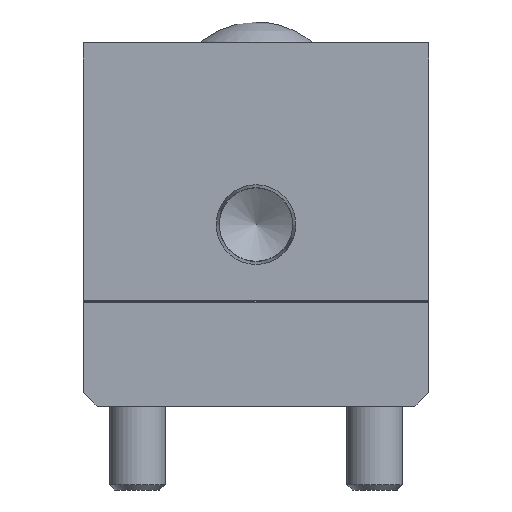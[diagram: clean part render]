
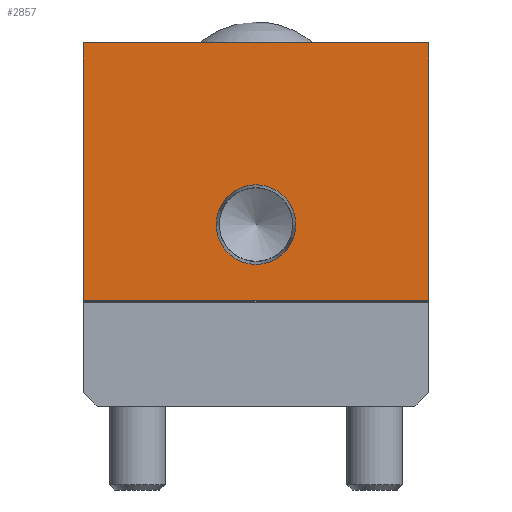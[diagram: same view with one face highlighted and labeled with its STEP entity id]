
A CAD part, front view. The second image highlights one B-rep face of the part: STEP entity #2857.
In plain terms, the highlighted planar face has unit normal (0, -1, 0).
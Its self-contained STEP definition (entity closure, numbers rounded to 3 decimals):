
#171=FACE_BOUND('',#630,.T.);
#250=CIRCLE('',#3041,5.704);
#416=FACE_OUTER_BOUND('',#629,.T.);
#629=EDGE_LOOP('',(#2086,#2087,#2088,#2089));
#630=EDGE_LOOP('',(#2090));
#903=LINE('',#4271,#1121);
#906=LINE('',#4276,#1124);
#908=LINE('',#4284,#1126);
#922=LINE('',#4320,#1140);
#1121=VECTOR('',#3449,36.9);
#1124=VECTOR('',#3454,49.5);
#1126=VECTOR('',#3462,36.9);
#1140=VECTOR('',#3506,49.5);
#1322=VERTEX_POINT('',#4268);
#1323=VERTEX_POINT('',#4270);
#1324=VERTEX_POINT('',#4274);
#1327=VERTEX_POINT('',#4282);
#1331=VERTEX_POINT('',#4296);
#1592=EDGE_CURVE('',#1323,#1322,#903,.T.);
#1595=EDGE_CURVE('',#1322,#1324,#906,.T.);
#1599=EDGE_CURVE('',#1327,#1324,#908,.T.);
#1604=EDGE_CURVE('',#1331,#1331,#250,.T.);
#1617=EDGE_CURVE('',#1327,#1323,#922,.T.);
#2086=ORIENTED_EDGE('',*,*,#1617,.T.);
#2087=ORIENTED_EDGE('',*,*,#1592,.T.);
#2088=ORIENTED_EDGE('',*,*,#1595,.T.);
#2089=ORIENTED_EDGE('',*,*,#1599,.F.);
#2090=ORIENTED_EDGE('',*,*,#1604,.T.);
#2577=PLANE('',#3074);
#2857=ADVANCED_FACE('',(#416,#171),#2577,.T.);
#3041=AXIS2_PLACEMENT_3D('',#4297,#3477,#3478);
#3074=AXIS2_PLACEMENT_3D('',#4358,#3560,#3561);
#3449=DIRECTION('',(0.,0.,1.));
#3454=DIRECTION('',(-1.,0.,0.));
#3462=DIRECTION('',(0.,0.,1.));
#3477=DIRECTION('center_axis',(0.,1.,0.));
#3478=DIRECTION('ref_axis',(1.,0.,0.));
#3506=DIRECTION('',(1.,0.,0.));
#3560=DIRECTION('center_axis',(0.,-1.,0.));
#3561=DIRECTION('ref_axis',(0.,0.,-1.));
#4268=CARTESIAN_POINT('',(24.75,0.,52.));
#4270=CARTESIAN_POINT('',(24.75,0.,15.1));
#4271=CARTESIAN_POINT('',(24.75,0.,0.));
#4274=CARTESIAN_POINT('',(-24.75,0.,52.));
#4276=CARTESIAN_POINT('',(24.75,0.,52.));
#4282=CARTESIAN_POINT('',(-24.75,0.,15.1));
#4284=CARTESIAN_POINT('',(-24.75,0.,0.));
#4296=CARTESIAN_POINT('',(5.704,0.,26.));
#4297=CARTESIAN_POINT('Origin',(0.,0.,26.));
#4320=CARTESIAN_POINT('',(24.75,0.,15.1));
#4358=CARTESIAN_POINT('Origin',(24.75,0.,0.));
